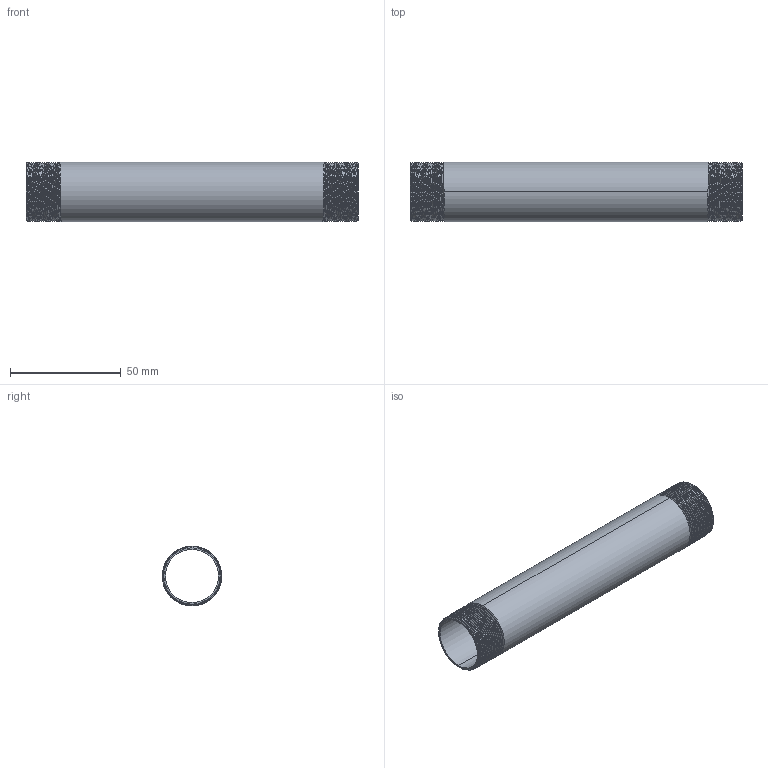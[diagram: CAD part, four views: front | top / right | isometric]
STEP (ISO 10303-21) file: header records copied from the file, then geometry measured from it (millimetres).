
FILE_DESCRIPTION (( 'STEP AP203' ), '1' );
FILE_NAME ('3D_R210_3-4x150_17185440.STEP', '2024-08-16T10:50:29', ( '' ), ( '' ), 'SwSTEP 2.0', 'SolidWorks 2024', '' );
FILE_SCHEMA (( 'CONFIG_CONTROL_DESIGN' ));
Length unit declared in the file: millimetre
Products named in the file (1): 3D_R210_3-4x150_17185440
Bounding box: 150 x 26.89 x 26.9 mm (x, y, z)
Volume: 17151.3 mm3; surface area: 25347.3 mm2
Topology: 1 solids, 1 shells, 80 faces, 226 edges, 148 vertices
Faces by surface type: cone 66, bspline 6, cylinder 4, plane 4
Entity records: 13361 total; most frequent: CARTESIAN_POINT 11499, ORIENTED_EDGE 452, DIRECTION 254, EDGE_CURVE 226, VERTEX_POINT 148, B_SPLINE_CURVE_WITH_KNOTS 128, AXIS2_PLACEMENT_3D 89, EDGE_LOOP 82
